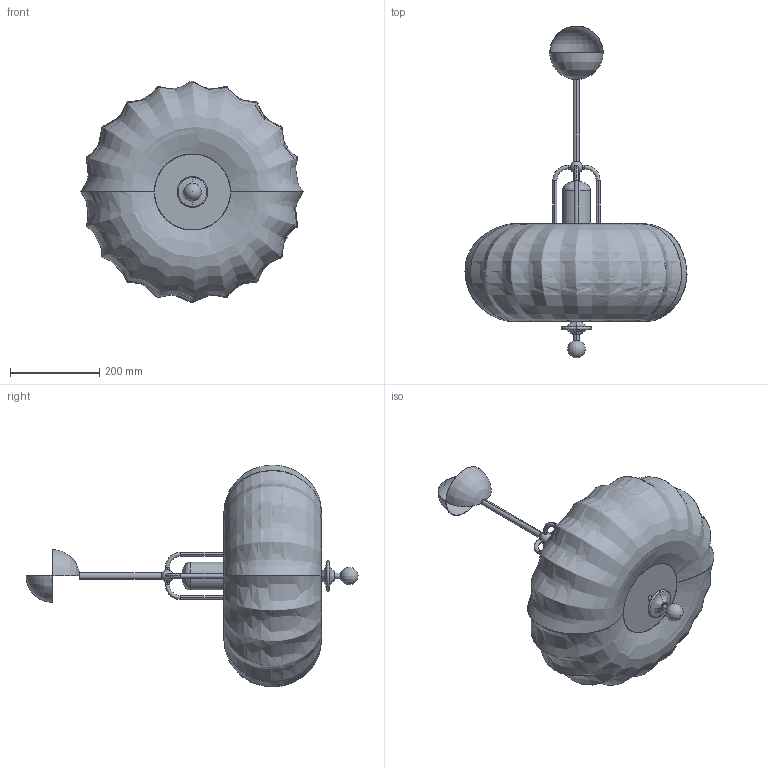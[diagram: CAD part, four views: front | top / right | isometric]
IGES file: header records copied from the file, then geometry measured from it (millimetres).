
Start section: SolidWorks IGES file using analytic representation for surfaces
Global section: file name: F:\燠隴矨\3D\2025-8\Silka Pendant Lamp.IGS,15; native system: HSolidWorks 2022; preprocessor: SolidWorks 2022; author: MyPC; date: 250826.210350; units: millimetre
Bounding box: 498.25 x 745.02 x 498.11 mm (x, y, z)
Surface area: 1244385.5 mm2 (no closed solid volume)
Topology: 0 solids, 0 shells, 86 faces, 1308 edges, 1298 vertices
Faces by surface type: bspline 48, revolution 38
